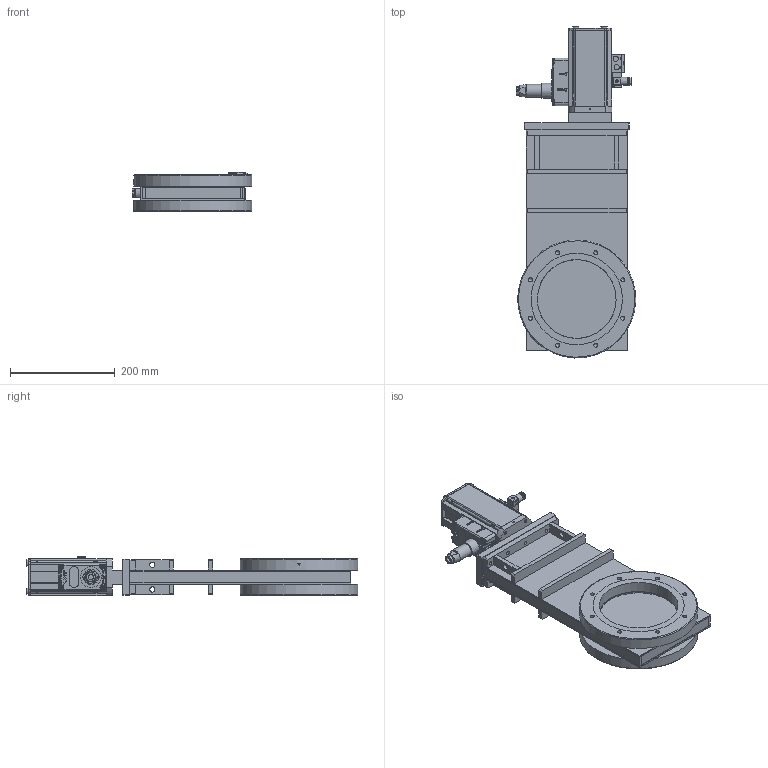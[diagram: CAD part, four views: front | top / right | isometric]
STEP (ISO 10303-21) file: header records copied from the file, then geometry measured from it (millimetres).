
FILE_DESCRIPTION(/* description */ (''),/* implementation_level */ '2;1');
FILE_NAME(/* name */ '1136750122_203.stp',/* time_stamp */ '2016-09-20T10:34:56+02:00',/* author */ (''),/* organization */ (''),/* preprocessor_version */ 'ST-DEVELOPER v15',/* originating_system */ 'SIEMENS PLM Software NX 9.0',/* authorisation */ '');
FILE_SCHEMA (('AP203_CONFIGURATION_CONTROLLED_3D_DESIGN_OF_MECHANICAL_PARTS_AND_ASSEMBLIES_MIM_LF { 1 0 10303 403 2 1 2}'));
Products named in the file (57): 500156; 800510; 387037; 800510_22928ID; 804858_22934ID; 804850_22954ID; 804857_22952ID; 804857_22951ID; 804844_22950ID; 804853_22949ID; 804858_22948ID; 804844_22947ID; 804857_22945ID; 804858_22944ID; 804853_22943ID; 804845_22941ID; 804845_22940ID; 804857_22938ID; 804858_22935ID; 70986-01.1; N-6240-008.1; N-6195-007.2; 71055-01.1; n-6011-049.1; 70973-01.1; 467882; 437235; 51434-01.1_22836ID; 51434-01.1_22931ID; n-6099-492.1; n-6024-548.1; 70988-01.1; 70987-01.1; n-8504-002; 69129.1; 72872-01.1_22849ID; N-6024-571.1; 85948-01.1; 94223-01.1; 73004-01.1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
Assembly tree (81 placements, depth 5):
  860946
    93160-01.1
    94800-r1.7_NX-ARRAGMNTKONFIG1
      N-5018-005.1  x2
      N-6024-524.1  x6
      N-7557-016_2.1
      N-7557-018.1
      N-7557-016_1.1
      N-7557-016_3.1_MODELNX-ARRAGMNTArrangement 1
        437235
        467882
    94236-r1.3
      73004-01.1  x4
      94223-01.1
      85948-01.1
      N-6024-571.1  x4
    82469-r1.1
      72872-01.1_22849ID
      69129.1
    81045-r1.2
      n-8504-002
      387035_MODEL
        70973-01.1
        n-6011-049.1  x2
        387036_MODELNX-ARRAGMNTMikroschalter neue Höhe
          800510_22928ID
          387037
          800510
          500156
      73638-r1.1
        71055-01.1  x4
        N-6195-007.2  x4
        N-6240-008.1  x2
        70986-01.1
      70987-01.1
      70988-01.1  x2
      n-6024-548.1  x4
    52588-r1.1
      804898_MODEL
        804858_22935ID
        804857_22938ID
        804845_22940ID
        804845_22941ID
        804853_22943ID
        804858_22944ID
        804857_22945ID
        804844_22947ID
        804858_22948ID
        804853_22949ID
        804844_22950ID
        804857_22951ID
        804857_22952ID
        804850_22954ID
        804858_22934ID
      n-6099-492.1  x2
      51434-01.1_22931ID
      51434-01.1_22836ID
Bounding box: 227.88 x 632.81 x 74.35 mm (x, y, z)
Volume: 2835758 mm3; surface area: 880289 mm2
Topology: 89 solids, 89 shells, 3432 faces, 8942 edges, 5973 vertices
Faces by surface type: plane 2244, cylinder 752, cone 135, bspline 96, torus 90, extrusion 87, sphere 28
Full cylindrical faces by diameter (mm): 0.5 x1, 1 x7, 1.1 x14, 1.5 x11, 1.6 x14, 1.66 x7, 1.97 x4, 2 x30, 2.125 x1, 2.265 x2, 2.46 x2, 2.5 x25, 2.65 x1, 3 x14, 3.2 x2, 3.3 x4, 3.4 x6, 3.5 x4, 3.8 x2, 4 x6, 4.2 x4, 4.22 x1, 4.4 x4, 4.45 x4, 4.625 x2, 4.75 x8, 5 x5, 5.5 x1, 5.9 x1, 6 x22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
Entity records: 113935 total; most frequent: CARTESIAN_POINT 31063, ORIENTED_EDGE 14244, DIRECTION 13176, EDGE_CURVE 7122, VERTEX_POINT 5054, AXIS2_PLACEMENT_3D 4508, VECTOR 4160, LINE 4073
